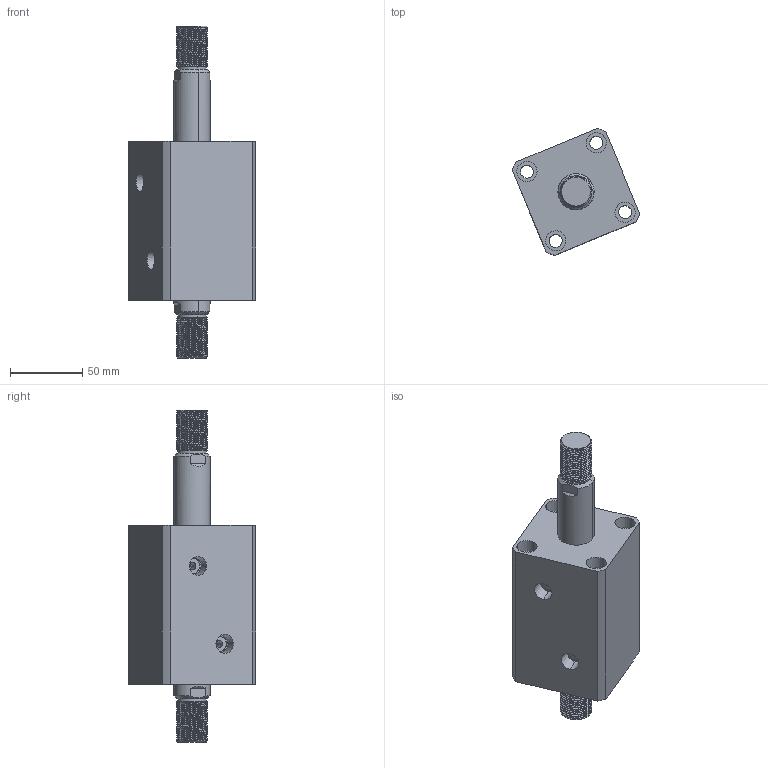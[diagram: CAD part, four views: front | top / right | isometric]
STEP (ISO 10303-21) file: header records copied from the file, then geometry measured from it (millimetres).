
FILE_DESCRIPTION (( 'STEP AP214' ), '1' );
FILE_NAME ('chtb-sw40x40w_asm.STEP', '2018-06-08T10:07:11', ( 'Windows' ), ( 'Microsoft' ), 'SwSTEP 2.0', 'SolidWorks 2015', '' );
FILE_SCHEMA (( 'AUTOMOTIVE_DESIGN' ));
Length unit declared in the file: millimetre
Products named in the file (4): chtb-sw40x40w_asm; CHTB-SW40X40NHSG; CHTB-SW40X40NBT; CHTB-SD40QG
Assembly tree (3 placements, depth 2):
  chtb-sw40x40w_asm
    CHTB-SD40QG
    CHTB-SW40X40NBT
    CHTB-SW40X40NHSG
Bounding box: 88.11 x 88.11 x 230 mm (x, y, z)
Volume: 515312.4 mm3; surface area: 99312.8 mm2
Topology: 3 solids, 3 shells, 254 faces, 680 edges, 452 vertices
Faces by surface type: cylinder 160, plane 46, bspline 18, cone 18, torus 12
Entity records: 17389 total; most frequent: CARTESIAN_POINT 11402, ORIENTED_EDGE 1348, DIRECTION 1094, EDGE_CURVE 674, VERTEX_POINT 452, AXIS2_PLACEMENT_3D 443, EDGE_LOOP 296, ADVANCED_FACE 254
